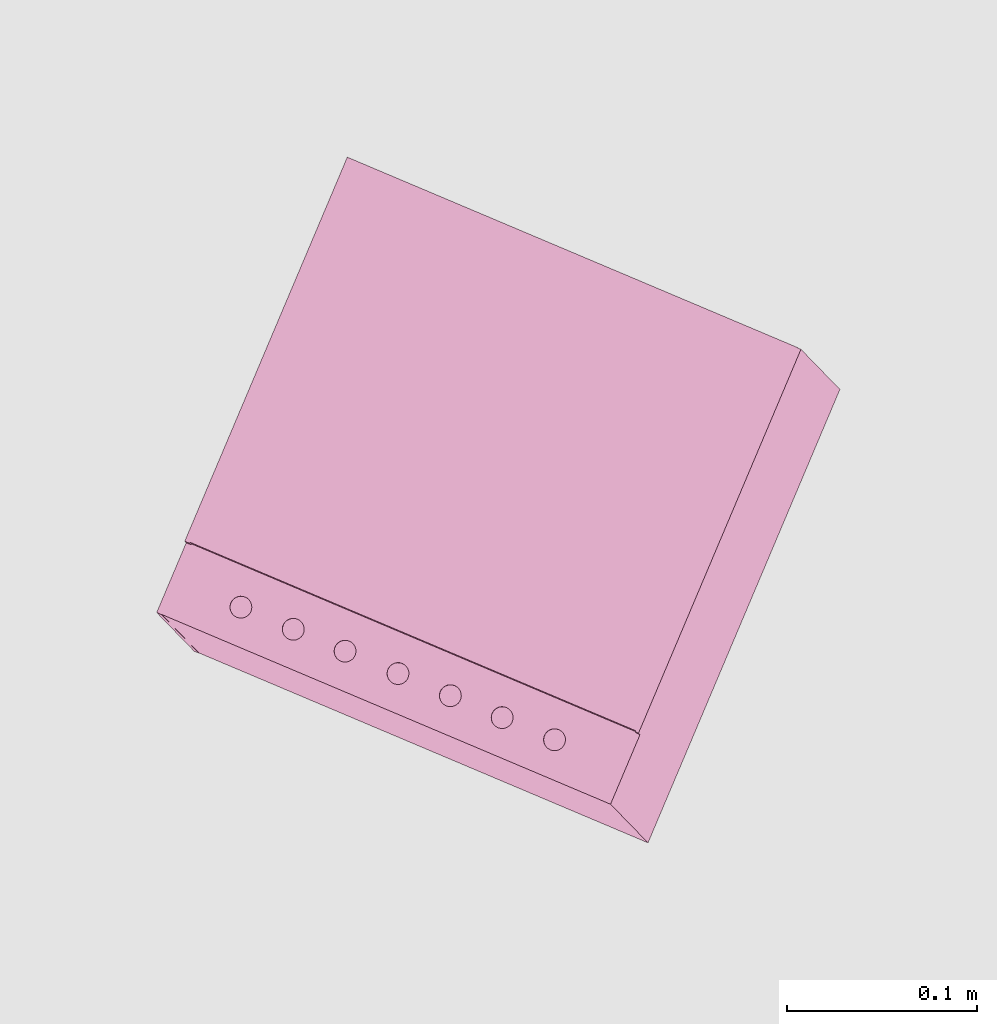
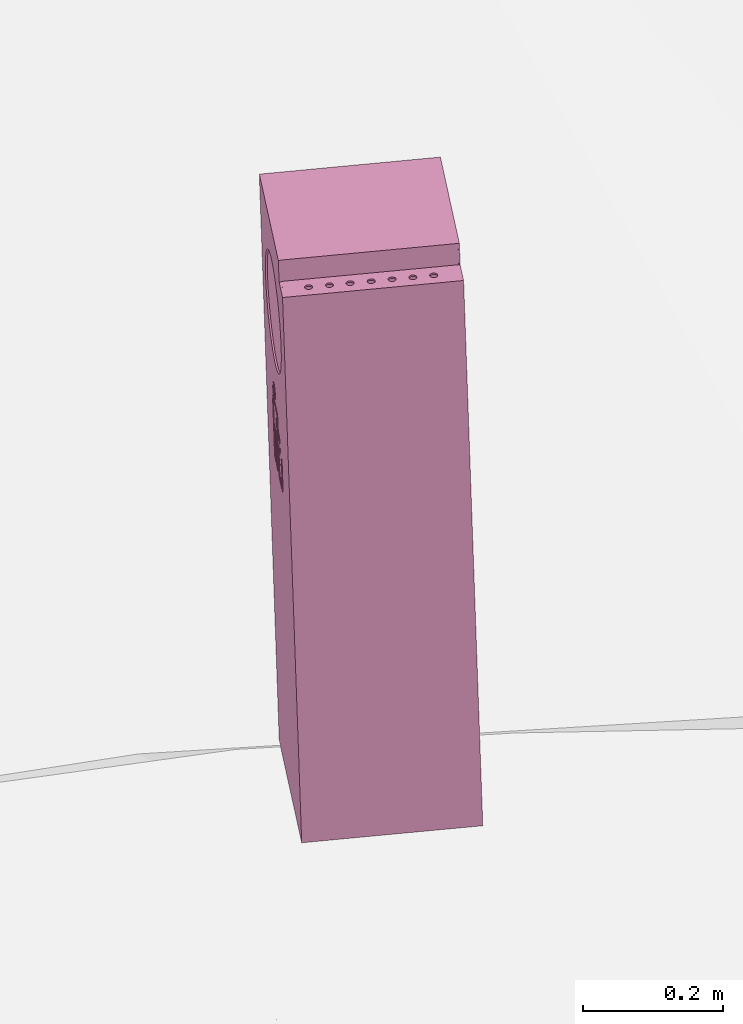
# One storey, part 58 of 75: 1 furnishing.
"""IFC2X3 building model written with IfcOpenShell, lengths in metres."""

from ifc_helpers import new_model, entity, si_unit, converted_unit, derived_unit, direction, frame, frame_2d, origin, origin_2d_with_axis, place, context, subcontext, project, spatial, polyline, circle_curve, parameter, trimmed, segment, composite_curve, rectangle, circle, hollow_circle, outline, extrude, source, transform, mapped, material, material_list, type_object, type_shapes, element, save


model = new_model("IFC2X3")

# Units and contexts
model_context = context("Model", 3, precision=1e-05, world=origin(), true_north=direction((6.123031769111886e-17, 1.0)))
body_context = subcontext(model_context, "Body", "Model", "MODEL_VIEW")
ifc_project = project(units=[si_unit("LENGTHUNIT", "METRE"), si_unit("AREAUNIT", "SQUARE_METRE"), si_unit("VOLUMEUNIT", "CUBIC_METRE"), converted_unit("PLANEANGLEUNIT", "DEGREE", entity("IfcRatioMeasure", 0.017453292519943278), si_unit("PLANEANGLEUNIT", "RADIAN"), dimensions=[0, 0, 0, 0, 0, 0, 0]), si_unit("MASSUNIT", "GRAM", prefix="KILO"), derived_unit("MASSDENSITYUNIT", [(si_unit("MASSUNIT", "GRAM", prefix="KILO"), 1), (si_unit("LENGTHUNIT", "METRE"), -3)]), derived_unit("IONCONCENTRATIONUNIT", [(si_unit("MASSUNIT", "GRAM", prefix="KILO"), 1), (si_unit("LENGTHUNIT", "METRE"), -3)]), derived_unit("MOMENTOFINERTIAUNIT", [(si_unit("LENGTHUNIT", "METRE"), 4)]), si_unit("TIMEUNIT", "SECOND"), si_unit("FREQUENCYUNIT", "HERTZ"), si_unit("THERMODYNAMICTEMPERATUREUNIT", "DEGREE_CELSIUS"), derived_unit("THERMALTRANSMITTANCEUNIT", [(si_unit("MASSUNIT", "GRAM", prefix="KILO"), 1), (si_unit("THERMODYNAMICTEMPERATUREUNIT", "KELVIN"), -1), (si_unit("TIMEUNIT", "SECOND"), -3)]), derived_unit("THERMALCONDUCTANCEUNIT", [(si_unit("MASSUNIT", "GRAM", prefix="KILO"), 1), (si_unit("THERMODYNAMICTEMPERATUREUNIT", "KELVIN"), -1), (si_unit("TIMEUNIT", "SECOND"), -3), (si_unit("LENGTHUNIT", "METRE"), 1)]), derived_unit("VOLUMETRICFLOWRATEUNIT", [(si_unit("LENGTHUNIT", "METRE"), 3), (si_unit("TIMEUNIT", "SECOND"), -1)]), derived_unit("MASSFLOWRATEUNIT", [(si_unit("MASSUNIT", "GRAM", prefix="KILO"), 1), (si_unit("TIMEUNIT", "SECOND"), -1)]), derived_unit("ROTATIONALFREQUENCYUNIT", [(si_unit("TIMEUNIT", "SECOND"), -1)]), si_unit("ELECTRICCURRENTUNIT", "AMPERE"), si_unit("ELECTRICVOLTAGEUNIT", "VOLT"), si_unit("POWERUNIT", "WATT"), si_unit("FORCEUNIT", "NEWTON", prefix="KILO"), si_unit("ILLUMINANCEUNIT", "LUX"), si_unit("LUMINOUSFLUXUNIT", "LUMEN"), si_unit("LUMINOUSINTENSITYUNIT", "CANDELA"), derived_unit("USERDEFINED", [(si_unit("MASSUNIT", "GRAM", prefix="KILO"), -1), (si_unit("LENGTHUNIT", "METRE"), -2), (si_unit("TIMEUNIT", "SECOND"), 3), (si_unit("LUMINOUSFLUXUNIT", "LUMEN"), 1)]), derived_unit("USERDEFINED", [(si_unit("MASSUNIT", "GRAM", prefix="KILO"), 1), (si_unit("TIMEUNIT", "SECOND"), -3), (si_unit("LENGTHUNIT", "METRE"), 3), (si_unit("ELECTRICCURRENTUNIT", "AMPERE"), -2)]), derived_unit("SOUNDPOWERUNIT", [(si_unit("MASSUNIT", "GRAM", prefix="KILO"), 1), (si_unit("TIMEUNIT", "SECOND"), -3), (si_unit("LENGTHUNIT", "METRE"), 2)]), derived_unit("SOUNDPRESSUREUNIT", [(si_unit("MASSUNIT", "GRAM", prefix="KILO"), 1), (si_unit("LENGTHUNIT", "METRE"), -1), (si_unit("TIMEUNIT", "SECOND"), -2)]), derived_unit("LINEARVELOCITYUNIT", [(si_unit("LENGTHUNIT", "METRE"), 1), (si_unit("TIMEUNIT", "SECOND"), -1)]), si_unit("PRESSUREUNIT", "PASCAL"), derived_unit("USERDEFINED", [(si_unit("MASSUNIT", "GRAM", prefix="KILO"), 1), (si_unit("LENGTHUNIT", "METRE"), -2), (si_unit("TIMEUNIT", "SECOND"), -2)]), derived_unit("LINEARFORCEUNIT", [(si_unit("MASSUNIT", "GRAM", prefix="KILO"), 1), (si_unit("TIMEUNIT", "SECOND"), -2)]), derived_unit("PLANARFORCEUNIT", [(si_unit("MASSUNIT", "GRAM", prefix="KILO"), 1), (si_unit("LENGTHUNIT", "METRE"), -1), (si_unit("TIMEUNIT", "SECOND"), -2)]), derived_unit("SPECIFICHEATCAPACITYUNIT", [(si_unit("THERMODYNAMICTEMPERATUREUNIT", "KELVIN"), -1), (si_unit("LENGTHUNIT", "METRE"), 2), (si_unit("TIMEUNIT", "SECOND"), -2)]), derived_unit("HEATINGVALUEUNIT", [(si_unit("LENGTHUNIT", "METRE"), 2), (si_unit("TIMEUNIT", "SECOND"), -2)]), derived_unit("VAPORPERMEABILITYUNIT", [(si_unit("LENGTHUNIT", "METRE"), -1), (si_unit("TIMEUNIT", "SECOND"), 1)]), derived_unit("DYNAMICVISCOSITYUNIT", [(si_unit("MASSUNIT", "GRAM", prefix="KILO"), 1), (si_unit("TIMEUNIT", "SECOND"), -1), (si_unit("LENGTHUNIT", "METRE"), -1)]), derived_unit("THERMALEXPANSIONCOEFFICIENTUNIT", [(si_unit("THERMODYNAMICTEMPERATUREUNIT", "KELVIN"), -1)]), derived_unit("MODULUSOFELASTICITYUNIT", [(si_unit("MASSUNIT", "GRAM", prefix="KILO"), 1), (si_unit("LENGTHUNIT", "METRE"), -1), (si_unit("TIMEUNIT", "SECOND"), -2)]), derived_unit("ISOTHERMALMOISTURECAPACITYUNIT", [(si_unit("LENGTHUNIT", "METRE"), 3), (si_unit("MASSUNIT", "GRAM", prefix="KILO"), -1)]), derived_unit("MOISTUREDIFFUSIVITYUNIT", [(si_unit("TIMEUNIT", "SECOND"), -1), (si_unit("LENGTHUNIT", "METRE"), 2)])], contexts=[model_context])

# Site, building, storey
site_placement = place(None, origin())
site = spatial("IfcSite", under=ifc_project, at=site_placement, Name="Default", CompositionType="ELEMENT")
building_placement = place(site_placement, origin())
building = spatial("IfcBuilding", under=site, at=building_placement, Name="Projeto", CompositionType="ELEMENT")
storey_placement = place(building_placement, origin())
storey = spatial("IfcBuildingStorey", under=building, at=storey_placement, Name="Nível 1", CompositionType="ELEMENT", Elevation=0.0)

# Furnishing
ifc_material_1 = material(Name="Metal")
ifc_material_2 = material(Name="Aço")
ifc_material_3 = material(Name="Metal(1)")
ifc_material_list = material_list([ifc_material_1, ifc_material_2, ifc_material_3])
furniture_type = type_object("IfcFurnitureType", Name="CS110:Lixeira Simples", material=ifc_material_list)
shared_shape = source(origin(), body_context, "Body", "SweptSolid", [
    extrude(rectangle(XDim=0.2552463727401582, YDim=0.25525227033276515, at=origin_2d_with_axis()), frame((0.011098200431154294, -0.014615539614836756, 0.00010118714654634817), z_axis=(0.0, 0.0, 1.0), x_axis=(0.0, 1.0, 0.0)), (0.0, 0.0, 1.0), 0.007939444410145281),
    extrude(rectangle(XDim=0.002807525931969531, YDim=0.2600000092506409, at=origin_2d_with_axis()), frame((0.011160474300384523, -0.14364248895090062, 0.00010118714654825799), z_axis=(0.0, 0.0, 1.0), x_axis=(0.0, 1.0, 0.0)), (0.0, 0.0, 1.0), 0.04989880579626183),
    extrude(outline(composite_curve([segment(polyline([(-0.060169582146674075, -0.037278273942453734), (0.034778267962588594, -0.037278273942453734)]), True, "CONTINUOUS"), segment(trimmed(circle_curve(frame_2d((0.034786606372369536, -0.02900575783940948), x_axis=(0.0010079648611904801, 0.9999994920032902)), 0.00827252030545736), [parameter(180.00000000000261)], [parameter(270.0)], True, "PARAMETER"), True, "CONTINUOUS"), segment(polyline([(0.043059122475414, -0.029014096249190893), (0.04309787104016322, 0.009428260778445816)]), True, "CONTINUOUS"), segment(trimmed(circle_curve(frame_2d((0.03321966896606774, 0.009889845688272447), x_axis=(0.0010079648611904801, 0.9999994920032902)), 0.009888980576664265), [parameter(267.382402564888)], [parameter(340.61759743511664)], True, "PARAMETER"), True, "CONTINUOUS"), segment(polyline([(0.03651094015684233, 0.019215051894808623), (0.017262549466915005, 0.01923445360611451)]), True, "CONTINUOUS"), segment(trimmed(circle_curve(frame_2d((0.01726467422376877, 0.02134241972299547), x_axis=(0.0010079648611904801, 0.9999994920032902)), 0.0021079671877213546), [parameter(90.00000000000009)], [parameter(180.00000000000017)], True, "PARAMETER"), False, "CONTINUOUS"), segment(polyline([(0.01515670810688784, 0.021344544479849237), (0.015165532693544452, 0.030099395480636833)]), True, "CONTINUOUS"), segment(trimmed(circle_curve(frame_2d((0.008470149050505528, 0.029878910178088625), x_axis=(0.0010079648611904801, 0.9999994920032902)), 0.006699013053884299), [parameter(271.94387463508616)], [parameter(90.00000000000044)], True, "PARAMETER"), True, "CONTINUOUS"), segment(polyline([(0.0017711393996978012, 0.02988566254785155), (0.0017536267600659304, 0.012511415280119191)]), True, "CONTINUOUS"), segment(trimmed(circle_curve(frame_2d((0.009863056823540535, 0.014226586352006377), x_axis=(0.0010079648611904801, 0.9999994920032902)), 0.008288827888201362), [parameter(102.00000000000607)], [parameter(179.99999999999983)], True, "PARAMETER"), True, "CONTINUOUS"), segment(polyline([(0.009854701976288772, 0.005937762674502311), (0.02310412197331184, 0.0059244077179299)]), True, "CONTINUOUS"), segment(trimmed(circle_curve(frame_2d((0.02310611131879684, 0.007898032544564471), x_axis=(0.0010079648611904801, 0.9999994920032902)), 0.0019736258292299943), [parameter(179.99999999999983)], [parameter(0.0)], True, "PARAMETER"), True, "CONTINUOUS"), segment(polyline([(0.02310810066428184, 0.009871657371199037), (0.009858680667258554, 0.009885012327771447)]), True, "CONTINUOUS"), segment(trimmed(circle_curve(frame_2d((0.009862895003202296, 0.014066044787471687), x_axis=(0.0010079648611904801, 0.9999994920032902)), 0.004181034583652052), [parameter(90.00000000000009)], [parameter(179.99999999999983)], True, "PARAMETER"), False, "CONTINUOUS"), segment(polyline([(0.005681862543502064, 0.0140702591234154), (0.005697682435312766, 0.02976513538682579)]), True, "CONTINUOUS"), segment(trimmed(circle_curve(frame_2d((0.008453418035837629, 0.02976235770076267), x_axis=(0.0010079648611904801, 0.9999994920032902)), 0.002755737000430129), [parameter(277.0844433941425)], [parameter(90.00000000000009)], True, "PARAMETER"), False, "CONTINUOUS"), segment(polyline([(0.011188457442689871, 0.030099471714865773), (0.011179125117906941, 0.020840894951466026)]), True, "CONTINUOUS"), segment(trimmed(circle_curve(frame_2d((0.017264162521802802, 0.020834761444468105), x_axis=(0.0010079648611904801, 0.9999994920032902)), 0.00608504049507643), [parameter(90.00000000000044)], [parameter(113.06722029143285)], True, "PARAMETER"), True, "CONTINUOUS"), segment(trimmed(circle_curve(frame_2d((0.016650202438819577, 0.02057403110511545), x_axis=(0.0010079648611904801, 0.9999994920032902)), 0.005418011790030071), [parameter(113.06722029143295)], [parameter(186.50383823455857)], True, "PARAMETER"), True, "CONTINUOUS"), segment(polyline([(0.017258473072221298, 0.015190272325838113), (0.03462911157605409, 0.01517276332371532)]), True, "CONTINUOUS"), segment(trimmed(circle_curve(frame_2d((0.034624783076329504, 0.010878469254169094), x_axis=(0.0010079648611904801, 0.9999994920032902)), 0.0042942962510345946), [parameter(269.9999999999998)], [parameter(0.0)], True, "PARAMETER"), False, "CONTINUOUS"), segment(polyline([(0.03891907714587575, 0.010874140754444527), (0.03887865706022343, -0.029226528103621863)]), True, "CONTINUOUS"), segment(trimmed(circle_curve(frame_2d((0.03478239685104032, -0.029222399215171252), x_axis=(0.0010079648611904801, 0.9999994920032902)), 0.004096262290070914), [parameter(180.00000000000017)], [parameter(269.99999999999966)], True, "PARAMETER"), False, "CONTINUOUS"), segment(polyline([(0.03477826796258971, -0.033318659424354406), (-0.06016958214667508, -0.033222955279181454)]), True, "CONTINUOUS"), segment(trimmed(circle_curve(frame_2d((-0.0601653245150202, -0.0289989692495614), x_axis=(0.0010079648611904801, 0.9999994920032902)), 0.004223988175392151), [parameter(0.0)], [parameter(179.99999999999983)], True, "PARAMETER"), False, "CONTINUOUS"), segment(polyline([(-0.06016106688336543, -0.024774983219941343), (-0.01262957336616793, -0.024822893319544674)]), True, "CONTINUOUS"), segment(trimmed(circle_curve(frame_2d((-0.01262154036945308, -0.01685337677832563), x_axis=(0.0010079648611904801, 0.9999994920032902)), 0.00796952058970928), [parameter(180.0000000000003)], [parameter(0.0)], True, "PARAMETER"), True, "CONTINUOUS"), segment(polyline([(-0.012613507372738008, -0.008883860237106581), (-0.06016958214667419, -0.008835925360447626)]), True, "CONTINUOUS"), segment(trimmed(circle_curve(frame_2d((-0.060165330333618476, -0.0046177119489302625), x_axis=(0.0010079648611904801, 0.9999994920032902)), 0.004218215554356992), [parameter(352.41126188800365)], [parameter(179.99999999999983)], True, "PARAMETER"), False, "CONTINUOUS"), segment(polyline([(-0.05960405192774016, -0.00043700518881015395), (0.023438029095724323, -0.000520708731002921)]), True, "CONTINUOUS"), segment(trimmed(circle_curve(frame_2d((0.023440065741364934, 0.0014998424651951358), x_axis=(0.0010079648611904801, 0.9999994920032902)), 0.002020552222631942), [parameter(179.99999999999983)], [parameter(0.0)], True, "PARAMETER"), True, "CONTINUOUS"), segment(polyline([(0.02344210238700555, 0.003520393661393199), (-0.06015295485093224, 0.003604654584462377)]), True, "CONTINUOUS"), segment(trimmed(circle_curve(frame_2d((-0.0601612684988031, -0.004643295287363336), x_axis=(0.0010079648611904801, 0.9999994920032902)), 0.008247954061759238), [parameter(4.579998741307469e-13)], [parameter(179.99999999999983)], True, "PARAMETER"), True, "CONTINUOUS"), segment(polyline([(-0.06016958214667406, -0.01289124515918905), (-0.012617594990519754, -0.01293917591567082)]), True, "CONTINUOUS"), segment(trimmed(circle_curve(frame_2d((-0.012621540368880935, -0.016853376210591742), x_axis=(0.0010079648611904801, 0.9999994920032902)), 0.003914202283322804), [parameter(180.00000000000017)], [parameter(0.0)], True, "PARAMETER"), False, "CONTINUOUS"), segment(polyline([(-0.012625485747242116, -0.020767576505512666), (-0.06015289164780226, -0.02071967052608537)]), True, "CONTINUOUS"), segment(trimmed(circle_curve(frame_2d((-0.06016118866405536, -0.028951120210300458), x_axis=(0.0010079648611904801, 0.9999994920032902)), 0.008231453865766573), [parameter(4.579998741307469e-13)], [parameter(180.00000000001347)], True, "PARAMETER"), True, "CONTINUOUS")], self_intersect=False)), frame((0.001275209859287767, -0.14639667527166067, 0.615086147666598), z_axis=(0.0, 1.0, 0.0), x_axis=(0.0010079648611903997, 0.0, 0.9999994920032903)), (0.0, 0.0, 1.0), 0.0011340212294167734),
    extrude(circle(Radius=0.0027431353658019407, at=origin_2d_with_axis()), frame((0.04600933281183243, -0.14639667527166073, 0.5878105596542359), z_axis=(0.0, 1.0, 0.0), x_axis=(1.0, 0.0, 0.0)), (0.0, 0.0, 1.0), 0.0011340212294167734),
    extrude(outline(composite_curve([segment(trimmed(circle_curve(frame_2d((-0.010133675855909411, 0.016442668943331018), x_axis=(1.0, 0.0)), 0.009242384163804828), [parameter(90.0000000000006)], [parameter(185.99999999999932)], True, "PARAMETER"), True, "CONTINUOUS"), segment(polyline([(-0.019325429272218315, 0.01547657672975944), (-0.01932542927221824, -0.029209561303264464)]), True, "CONTINUOUS"), segment(polyline([(-0.01932542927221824, -0.029209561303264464), (-0.019325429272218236, -0.03241102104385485)]), True, "CONTINUOUS"), segment(polyline([(-0.019325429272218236, -0.03241102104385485), (-0.015290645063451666, -0.03241102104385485)]), True, "CONTINUOUS"), segment(polyline([(-0.015290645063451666, -0.03241102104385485), (-0.015290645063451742, 0.015330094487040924)]), True, "CONTINUOUS"), segment(trimmed(circle_curve(frame_2d((-0.009942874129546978, 0.01628766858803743), x_axis=(1.0, 0.0)), 0.005432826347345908), [parameter(85.15785050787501)], [parameter(190.15182061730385)], True, "PARAMETER"), False, "CONTINUOUS"), segment(polyline([(-0.009484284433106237, 0.021701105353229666), (0.013416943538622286, 0.021701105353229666)]), True, "CONTINUOUS"), segment(trimmed(circle_curve(frame_2d((0.013416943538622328, 0.016993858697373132), x_axis=(1.0, 0.0)), 0.004707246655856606), [parameter(354.000000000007)], [parameter(90.0000000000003)], True, "PARAMETER"), False, "CONTINUOUS"), segment(polyline([(0.01809840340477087, 0.016501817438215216), (0.018098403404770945, -0.03241102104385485)]), True, "CONTINUOUS"), segment(polyline([(0.018098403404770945, -0.03241102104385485), (0.022216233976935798, -0.03241102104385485)]), True, "CONTINUOUS"), segment(polyline([(0.022216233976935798, -0.03241102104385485), (0.022185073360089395, 0.016772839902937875)]), True, "CONTINUOUS"), segment(trimmed(circle_curve(frame_2d((0.012847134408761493, 0.01643371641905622), x_axis=(1.0, 0.0)), 0.009344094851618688), [parameter(2.079881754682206)], [parameter(81.92011824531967)], True, "PARAMETER"), True, "CONTINUOUS"), segment(polyline([(0.014160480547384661, 0.02568505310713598), (-0.010133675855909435, 0.02568505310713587)]), True, "CONTINUOUS")], self_intersect=False)), frame((0.035797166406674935, -0.14639667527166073, 0.5721260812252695), z_axis=(0.0, 1.0, 0.0), x_axis=(1.0, 0.0, 0.0)), (0.0, 0.0, 1.0), 0.0011340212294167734),
    extrude(circle(Radius=0.0025582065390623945, at=origin_2d_with_axis()), frame((0.041513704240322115, -0.14639667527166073, 0.6113820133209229), z_axis=(0.0, 1.0, 0.0), x_axis=(1.0, 0.0, 0.0)), (0.0, 0.0, 1.0), 0.0011340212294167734),
    extrude(circle(Radius=0.002777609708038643, at=origin_2d_with_axis()), frame((0.032157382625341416, -0.14639667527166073, 0.6004056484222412), z_axis=(0.0, 1.0, 0.0), x_axis=(1.0, 0.0, 0.0)), (0.0, 0.0, 1.0), 0.0011340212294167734),
    extrude(circle(Radius=0.0027551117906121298, at=origin_2d_with_axis()), frame((0.04151368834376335, -0.14639667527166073, 0.5608417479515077), z_axis=(0.0, 1.0, 0.0), x_axis=(1.0, 0.0, 0.0)), (0.0, 0.0, 1.0), 0.0011340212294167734),
    extrude(hollow_circle(Radius=0.013154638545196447, WallThickness=0.004019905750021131, at=frame_2d((0.0, -1.353583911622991e-16), x_axis=(1.0, 0.0))), frame((-0.015491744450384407, -0.14639667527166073, 0.6757249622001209), z_axis=(0.0, 1.0, 0.0), x_axis=(1.0, 0.0, 0.0)), (0.0, 0.0, 1.0), 0.0011340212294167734),
    extrude(outline(polyline([(-0.0190625, -0.1276231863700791), (0.0190625, -0.1276231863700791), (0.0190625, 0.1276231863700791), (-0.0190625, 0.12762318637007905), (-0.0190625, -0.1276231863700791)]), holes=[composite_curve([segment(trimmed(circle_curve(frame_2d((-0.001551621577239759, -0.08906790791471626), x_axis=(-1.0, 0.0)), 0.0057793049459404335), [parameter(3.5622212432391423e-13)], [parameter(179.99999999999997)], True, "PARAMETER"), False, "CONTINUOUS"), segment(trimmed(circle_curve(frame_2d((-0.001551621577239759, -0.08906790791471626), x_axis=(-1.0, 0.0)), 0.0057793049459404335), [parameter(179.99999999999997)], [parameter(0.0)], True, "PARAMETER"), False, "CONTINUOUS")], self_intersect=False), composite_curve([segment(trimmed(circle_curve(frame_2d((-0.0015516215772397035, -0.05906790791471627), x_axis=(-1.0, 0.0)), 0.0057793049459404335), [parameter(3.5622212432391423e-13)], [parameter(179.99999999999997)], True, "PARAMETER"), False, "CONTINUOUS"), segment(trimmed(circle_curve(frame_2d((-0.0015516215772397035, -0.05906790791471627), x_axis=(-1.0, 0.0)), 0.0057793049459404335), [parameter(179.99999999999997)], [parameter(0.0)], True, "PARAMETER"), False, "CONTINUOUS")], self_intersect=False), composite_curve([segment(trimmed(circle_curve(frame_2d((-0.0015516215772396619, -0.029396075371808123), x_axis=(-1.0, 0.0)), 0.0057793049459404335), [parameter(3.053332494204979e-13)], [parameter(180.0)], True, "PARAMETER"), False, "CONTINUOUS"), segment(trimmed(circle_curve(frame_2d((-0.0015516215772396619, -0.029396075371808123), x_axis=(-1.0, 0.0)), 0.0057793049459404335), [parameter(180.0)], [parameter(0.0)], True, "PARAMETER"), False, "CONTINUOUS")], self_intersect=False), composite_curve([segment(trimmed(circle_curve(frame_2d((-0.0015516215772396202, 0.0006039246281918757), x_axis=(-1.0, 0.0)), 0.0057793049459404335), [parameter(3.053332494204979e-13)], [parameter(180.0)], True, "PARAMETER"), False, "CONTINUOUS"), segment(trimmed(circle_curve(frame_2d((-0.0015516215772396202, 0.0006039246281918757), x_axis=(-1.0, 0.0)), 0.0057793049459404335), [parameter(180.0)], [parameter(0.0)], True, "PARAMETER"), False, "CONTINUOUS")], self_intersect=False), composite_curve([segment(trimmed(circle_curve(frame_2d((-0.0015516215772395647, 0.030932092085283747), x_axis=(-1.0, 0.0)), 0.0057793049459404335), [parameter(2.544443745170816e-13)], [parameter(179.9999999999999)], True, "PARAMETER"), False, "CONTINUOUS"), segment(trimmed(circle_curve(frame_2d((-0.0015516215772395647, 0.030932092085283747), x_axis=(-1.0, 0.0)), 0.0057793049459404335), [parameter(179.9999999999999)], [parameter(359.9999999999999)], True, "PARAMETER"), False, "CONTINUOUS")], self_intersect=False), composite_curve([segment(trimmed(circle_curve(frame_2d((-0.001551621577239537, 0.06060392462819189), x_axis=(-1.0, 0.0)), 0.0057793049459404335), [parameter(5.088887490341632e-13)], [parameter(179.99999999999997)], True, "PARAMETER"), False, "CONTINUOUS"), segment(trimmed(circle_curve(frame_2d((-0.001551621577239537, 0.06060392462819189), x_axis=(-1.0, 0.0)), 0.0057793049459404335), [parameter(179.99999999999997)], [parameter(359.99999999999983)], True, "PARAMETER"), False, "CONTINUOUS")], self_intersect=False), composite_curve([segment(trimmed(circle_curve(frame_2d((-0.0015516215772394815, 0.09060392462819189), x_axis=(-1.0, 0.0)), 0.0057793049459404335), [parameter(3.5622212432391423e-13)], [parameter(180.00000000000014)], True, "PARAMETER"), False, "CONTINUOUS"), segment(trimmed(circle_curve(frame_2d((-0.0015516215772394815, 0.09060392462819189), x_axis=(-1.0, 0.0)), 0.0057793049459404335), [parameter(180.00000000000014)], [parameter(0.0)], True, "PARAMETER"), False, "CONTINUOUS")], self_intersect=False)]), frame((0.11966183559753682, -0.014615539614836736, 0.9407100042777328), z_axis=(0.0, 0.0, 1.0), x_axis=(-1.0, 0.0, 0.0)), (0.0, 0.0, 1.0), 0.0024447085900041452),
    extrude(rectangle(XDim=0.2148156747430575, YDim=0.2552463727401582, at=frame_2d((0.0, -2.7755575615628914e-17), x_axis=(1.0, 0.0))), frame((-0.00912009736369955, -0.014615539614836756, 0.9740841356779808), z_axis=(0.0, 0.0, 1.0), x_axis=(-1.0, 0.0, 0.0)), (0.0, 0.0, 1.0), 0.005915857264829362),
    extrude(rectangle(XDim=0.2552463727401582, YDim=0.0023115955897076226, at=origin_2d_with_axis()), frame((0.13988013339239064, -0.014615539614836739, 0.00010118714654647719), z_axis=(0.0, 0.0, 1.0), x_axis=(0.0, 1.0, 0.0)), (0.0, 0.0, 1.0), 0.9430535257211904),
    extrude(rectangle(XDim=0.2552463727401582, YDim=0.0023115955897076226, at=origin_2d_with_axis()), frame((0.099443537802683, -0.014615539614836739, 0.049999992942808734), z_axis=(0.0, 0.0, 1.0), x_axis=(0.0, 1.0, 0.0)), (0.0, 0.0, 1.0), 0.93),
    extrude(rectangle(XDim=0.2552463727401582, YDim=0.0023115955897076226, at=origin_2d_with_axis()), frame((-0.1176837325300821, -0.014615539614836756, 0.00010118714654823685), z_axis=(0.0, 0.0, 1.0), x_axis=(0.0, 1.0, 0.0)), (0.0, 0.0, 1.0), 0.9798988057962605),
    extrude(outline(polyline([(-0.3389662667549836, 0.05999034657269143), (-0.3389662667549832, -0.15985615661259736), (0.6409325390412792, -0.15985615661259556), (0.6409325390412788, 0.09986581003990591), (-0.3019662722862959, 0.09986581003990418), (-0.30196627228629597, 0.05999034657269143), (-0.3389662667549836, 0.05999034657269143)])), frame((0.0411701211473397, 0.11300764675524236, 0.6410337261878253), z_axis=(0.0, -1.0, 0.0), x_axis=(0.0, 0.0, -1.0)), (0.0, 0.0, -1.0), 0.0019326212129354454),
    extrude(outline(polyline([(-0.32233333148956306, 0.059999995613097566), (-0.3223333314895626, -0.16000000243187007), (0.6076666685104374, -0.16000000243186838), (0.6076666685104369, 0.1000000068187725), (-0.285333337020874, 0.10000000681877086), (-0.28533333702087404, 0.059999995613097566), (-0.32233333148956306, 0.059999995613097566)]), holes=[composite_curve([segment(trimmed(circle_curve(frame_2d((-0.1708908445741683, -0.033309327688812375), x_axis=(0.0, 1.0)), 0.08999999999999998), [parameter(3.5622212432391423e-13)], [parameter(179.99999999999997)], True, "PARAMETER"), False, "CONTINUOUS"), segment(trimmed(circle_curve(frame_2d((-0.1708908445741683, -0.033309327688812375), x_axis=(0.0, 1.0)), 0.08999999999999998), [parameter(179.99999999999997)], [parameter(0.0)], True, "PARAMETER"), False, "CONTINUOUS")], self_intersect=False)]), frame((0.041160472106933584, -0.1450462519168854, 0.6576666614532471), z_axis=(0.0, -1.0, 0.0), x_axis=(0.0, 0.0, -1.0)), (0.0, 0.0, -1.0), 0.002807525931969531),
])
type_shapes(furniture_type, [shared_shape])
furnishing_placement = place(storey_placement, frame((-1.2420148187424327, 18.052138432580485, -2.4667993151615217), z_axis=(-0.02097047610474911, 0.02161109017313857, 0.9995464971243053), x_axis=(-0.38969282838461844, -0.9208701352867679, 0.011734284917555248)))
element("IfcFurnishingElement", 1, at=furnishing_placement, inside=storey, type_object=furniture_type, material=ifc_material_list, Name="CS110:Lixeira Simples", ObjectType="CS110:Lixeira Simples", context=body_context, shape_type="MappedRepresentation", body=[
    mapped(shared_shape, transform((0.0, 0.0, 0.0), scale=1.0)),
])

save(model, "model.ifc")
